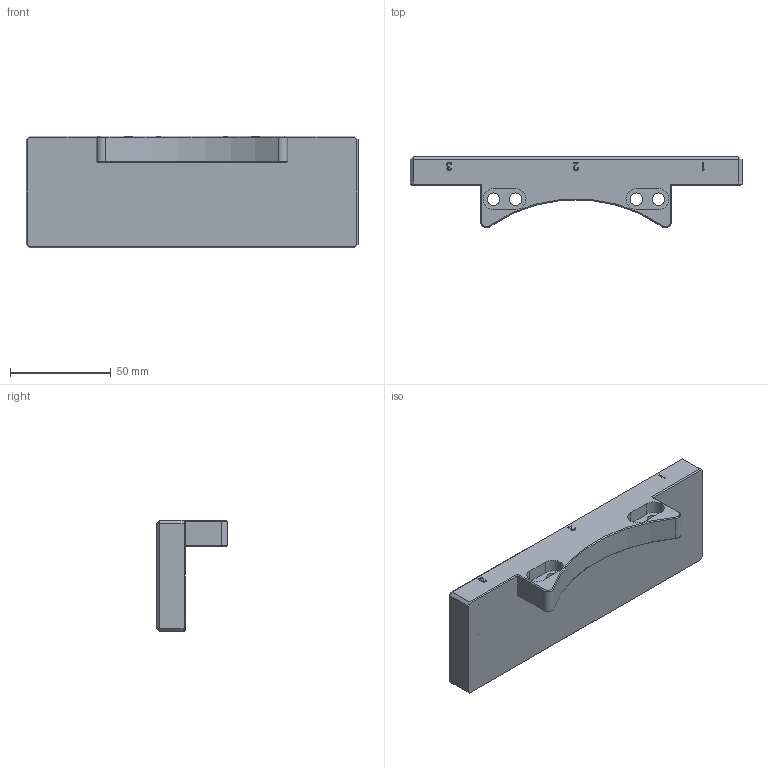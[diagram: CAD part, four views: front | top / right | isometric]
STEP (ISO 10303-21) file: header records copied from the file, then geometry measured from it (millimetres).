
FILE_DESCRIPTION (( 'STEP AP203' ), '1' );
FILE_NAME ('QCA-SR巠饜ん郪璃.STEP', '2023-11-10T00:25:40', ( '' ), ( '' ), 'SwSTEP 2.0', 'SolidWorks 2018', '' );
FILE_SCHEMA (( 'CONFIG_CONTROL_DESIGN' ));
Length unit declared in the file: millimetre
Products named in the file (1): QCA-SR巠饜ん郪璃
Bounding box: 165 x 35.48 x 55.5 mm (x, y, z)
Volume: 140461.5 mm3; surface area: 29834.1 mm2
Topology: 1 solids, 1 shells, 203 faces, 494 edges, 284 vertices
Faces by surface type: cone 62, plane 62, cylinder 61, bspline 18
Entity records: 6825 total; most frequent: CARTESIAN_POINT 2196, DIRECTION 942, ORIENTED_EDGE 916, EDGE_CURVE 458, AXIS2_PLACEMENT_3D 334, VERTEX_POINT 284, VECTOR 274, LINE 274
